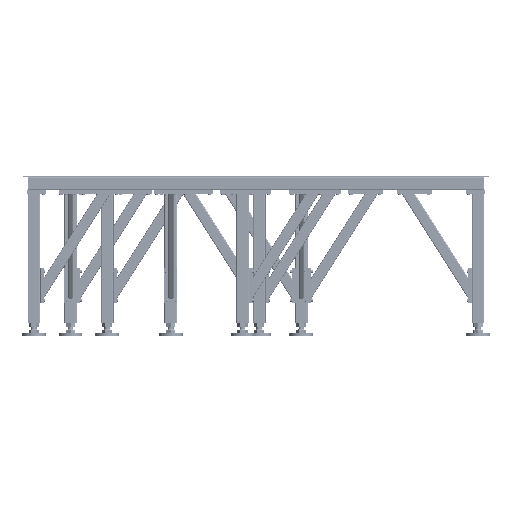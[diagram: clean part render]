
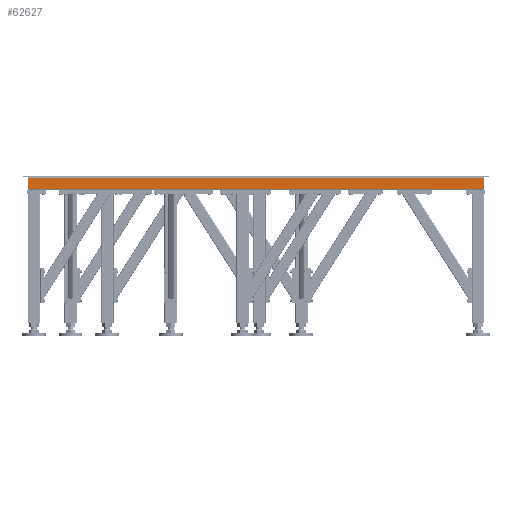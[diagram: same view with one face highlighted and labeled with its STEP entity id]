
A CAD part, left-side view. The second image highlights one B-rep face of the part: STEP entity #62627.
In plain terms, the highlighted planar face has unit normal (-1, 0, 0).
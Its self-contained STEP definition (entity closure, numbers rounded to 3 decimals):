
#9756 = CARTESIAN_POINT ( 'NONE',  ( 18940., 55540., -34. ) ) ;
#10623 = DIRECTION ( 'NONE',  ( 0., 1., 0. ) ) ;
#21481 = CARTESIAN_POINT ( 'NONE',  ( 18940., 58370., -34. ) ) ;
#24723 = EDGE_LOOP ( 'NONE', ( #60435, #176361, #174038, #32869 ) ) ;
#24840 = VECTOR ( 'NONE', #10623, 1000. ) ;
#27223 = DIRECTION ( 'NONE',  ( 0., 1., 0. ) ) ;
#28703 = VECTOR ( 'NONE', #263019, 1000. ) ;
#32869 = ORIENTED_EDGE ( 'NONE', *, *, #53374, .T. ) ;
#39045 = VECTOR ( 'NONE', #27223, 1000. ) ;
#39403 = FACE_OUTER_BOUND ( 'NONE', #24723, .T. ) ;
#42701 = DIRECTION ( 'NONE',  ( 0., 0., -1. ) ) ;
#53013 = VERTEX_POINT ( 'NONE', #91510 ) ;
#53374 = EDGE_CURVE ( 'NONE', #53013, #137689, #93183, .T. ) ;
#60435 = ORIENTED_EDGE ( 'NONE', *, *, #154468, .F. ) ;
#62627 = ADVANCED_FACE ( 'NONE', ( #39403 ), #163662, .F. ) ;
#91510 = CARTESIAN_POINT ( 'NONE',  ( 18940., 55500., 34. ) ) ;
#91669 = LINE ( 'NONE', #9756, #24840 ) ;
#93183 = LINE ( 'NONE', #109956, #39045 ) ;
#94488 = DIRECTION ( 'NONE',  ( 0., 0., 1. ) ) ;
#109956 = CARTESIAN_POINT ( 'NONE',  ( 18940., 55540., 34. ) ) ;
#119493 = CARTESIAN_POINT ( 'NONE',  ( 18940., 55500., -34. ) ) ;
#120844 = CARTESIAN_POINT ( 'NONE',  ( 18940., 58370., 34. ) ) ;
#122689 = CARTESIAN_POINT ( 'NONE',  ( 18940., 55540., -34. ) ) ;
#137689 = VERTEX_POINT ( 'NONE', #120844 ) ;
#141667 = EDGE_CURVE ( 'NONE', #53013, #201135, #197377, .T. ) ;
#154468 = EDGE_CURVE ( 'NONE', #250336, #137689, #196751, .T. ) ;
#163662 = PLANE ( 'NONE',  #250562 ) ;
#165426 = DIRECTION ( 'NONE',  ( 1., 0., 0. ) ) ;
#174038 = ORIENTED_EDGE ( 'NONE', *, *, #141667, .F. ) ;
#176361 = ORIENTED_EDGE ( 'NONE', *, *, #221956, .F. ) ;
#196751 = LINE ( 'NONE', #236706, #222202 ) ;
#197377 = LINE ( 'NONE', #201672, #28703 ) ;
#201135 = VERTEX_POINT ( 'NONE', #119493 ) ;
#201672 = CARTESIAN_POINT ( 'NONE',  ( 18940., 55500., -34. ) ) ;
#221956 = EDGE_CURVE ( 'NONE', #201135, #250336, #91669, .T. ) ;
#222202 = VECTOR ( 'NONE', #94488, 1000. ) ;
#236706 = CARTESIAN_POINT ( 'NONE',  ( 18940., 58370., -34. ) ) ;
#250336 = VERTEX_POINT ( 'NONE', #21481 ) ;
#250562 = AXIS2_PLACEMENT_3D ( 'NONE', #122689, #165426, #42701 ) ;
#263019 = DIRECTION ( 'NONE',  ( 0., 0., -1. ) ) ;
